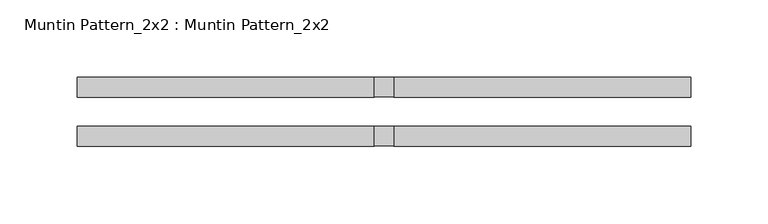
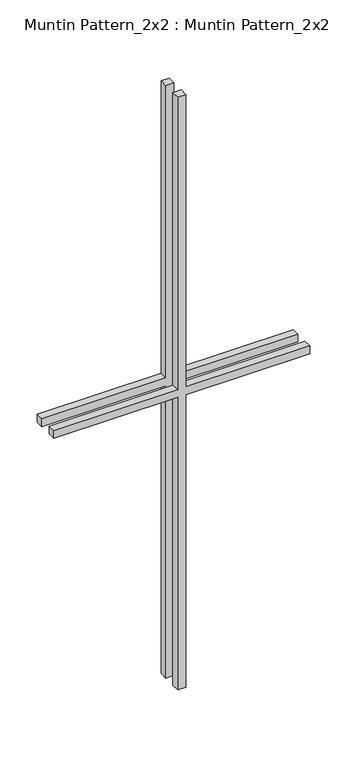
"""IFC4 building model written with IfcOpenShell, lengths in millimetres: proxy geometry, Muntin Pattern_2x2 : Muntin Pattern_2x2."""

from ifc_helpers import new_model, si_unit, frame, origin, place, context, project, spatial, polyline, outline, extrude, source, transform, mapped, element, save


def muntin_pattern_2x2_muntin_pattern_2x2_ace57a09(model_context):
    return source(origin(), model_context, "Body", "SweptSolid", [
        extrude(outline(polyline([(492.125, -6.35), (492.125, -198.4375), (479.425, -198.4375), (479.425, -6.35), (0.0, -6.35), (0.0, 6.35), (479.425, 6.35), (479.425, 198.4375), (492.125, 198.4375), (492.125, 6.35), (971.55, 6.35), (971.55, -6.35), (492.125, -6.35)])), frame((0.0, 9.525, 0.0), z_axis=(0.0, 1.0, 0.0), x_axis=(0.0, 0.0, 1.0)), (0.0, 0.0, 1.0), 12.7),
        extrude(outline(polyline([(492.125, -6.35), (492.125, -198.4375), (479.425, -198.4375), (479.425, -6.35), (0.0, -6.35), (0.0, 6.35), (479.425, 6.35), (479.425, 198.4375), (492.125, 198.4375), (492.125, 6.35), (971.55, 6.35), (971.55, -6.35), (492.125, -6.35)])), frame((0.0, -22.225, 0.0), z_axis=(0.0, 1.0, 0.0), x_axis=(0.0, 0.0, 1.0)), (0.0, 0.0, 1.0), 12.7),
    ])


if __name__ == "__main__":
    model = new_model("IFC4")
    model_context = context("Model", 3, world=origin())
    ifc_project = project(units=[si_unit("LENGTHUNIT", "METRE", prefix="MILLI")], contexts=[model_context])
    site = spatial("IfcSite", under=ifc_project)
    building = spatial("IfcBuilding", under=site)
    placement = place(None, origin())
    muntin_pattern_2x2_muntin_pattern_2x2_shape = muntin_pattern_2x2_muntin_pattern_2x2_ace57a09(model_context)
    element("IfcBuildingElementProxy", 1, Name="Muntin Pattern_2x2 : Muntin Pattern_2x2", ObjectType="Muntin Pattern_2x2 : Muntin Pattern_2x2", at=placement, inside=building, context=model_context, shape_type="MappedRepresentation", body=[
        mapped(muntin_pattern_2x2_muntin_pattern_2x2_shape, transform((0.0, 0.0, 0.0), x_axis=(1.0, 0.0, 0.0), y_axis=(0.0, 1.0, 0.0), z_axis=(0.0, 0.0, 1.0))),
    ])
    save(model, "model.ifc")
